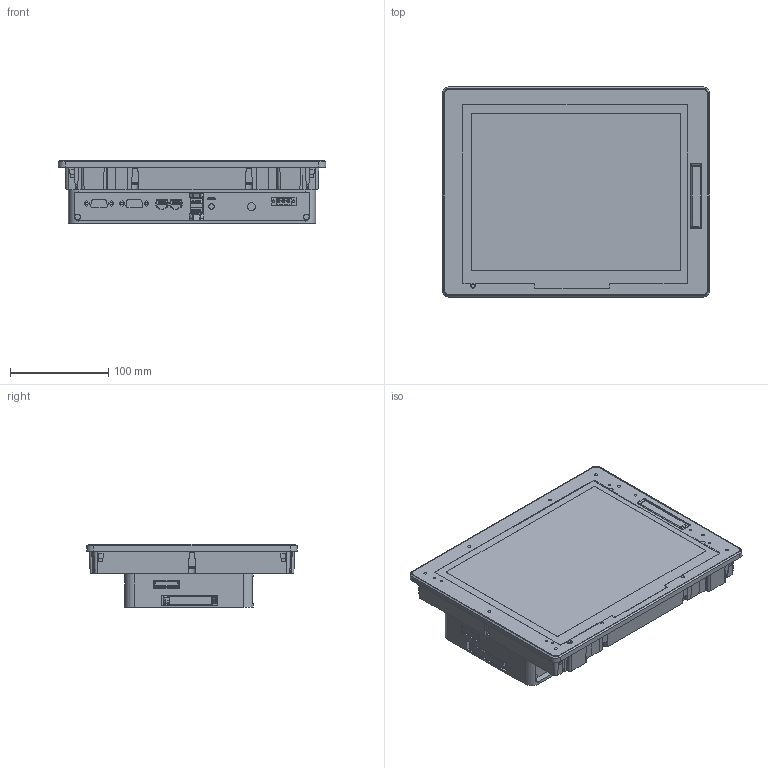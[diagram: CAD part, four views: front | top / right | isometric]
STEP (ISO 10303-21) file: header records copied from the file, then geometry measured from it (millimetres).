
FILE_DESCRIPTION (( 'STEP AP203' ), '1' );
FILE_NAME ('PFXGP6540TMDI.STEP', '2024-05-31T13:08:44', ( '' ), ( '' ), 'SwSTEP 2.0', 'SolidWorks 2020', '' );
FILE_SCHEMA (( 'CONFIG_CONTROL_DESIGN' ));
Products named in the file (1): PFXGP6540TMDI
Bounding box: 272.5 x 214.5 x 64.28 mm (x, y, z)
Volume: 2548394.9 mm3; surface area: 300442.4 mm2
Topology: 7 solids, 40 shells, 2939 faces, 8060 edges, 5249 vertices
Faces by surface type: plane 1822, cylinder 801, bspline 170, cone 146
Entity records: 107289 total; most frequent: CARTESIAN_POINT 35084, ORIENTED_EDGE 16078, DIRECTION 13323, EDGE_CURVE 8039, VECTOR 5645, LINE 5645, VERTEX_POINT 5249, AXIS2_PLACEMENT_3D 3839
